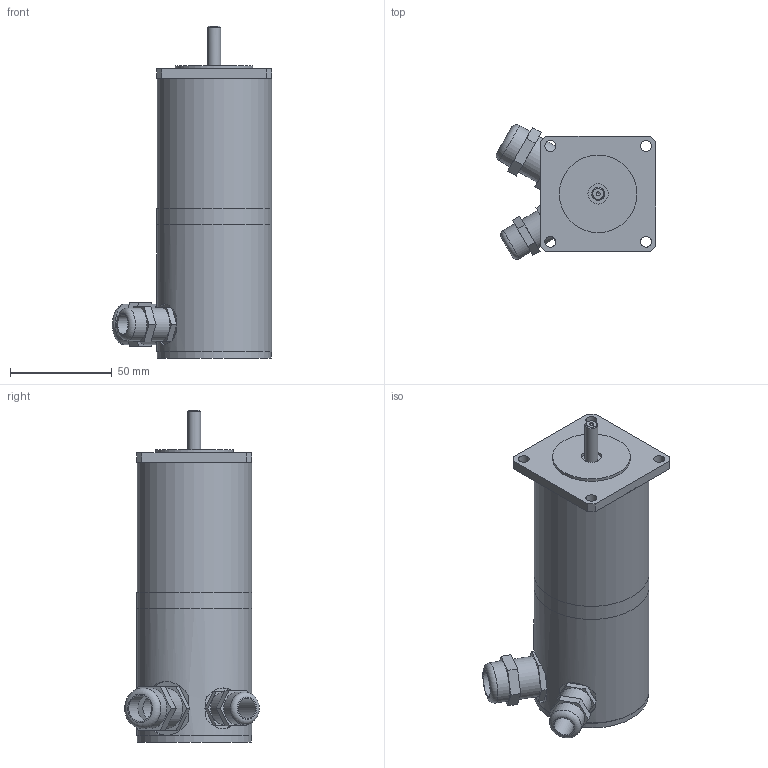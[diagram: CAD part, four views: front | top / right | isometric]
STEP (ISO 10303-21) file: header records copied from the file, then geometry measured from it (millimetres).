
FILE_DESCRIPTION((''),'2;1');
FILE_NAME('C:\Users\Reinhard\Documents\Inventor\Testschrittmotor\SM56\step files\SM 56.2-B-KV.stp','2020-02-24T21:08:50',('Reinhard'),(''),'Autodesk Inventor 2012','Autodesk Inventor 2012','');
FILE_SCHEMA(('CONFIG_CONTROL_DESIGN'));
Length unit declared in the file: millimetre
Products named in the file (1): SM 56.2-B-KV_Konturvereinfachung_1
Bounding box: 78.27 x 66.07 x 163 mm (x, y, z)
Volume: 111149.4 mm3; surface area: 66888.7 mm2
Topology: 2 solids, 3 shells, 108 faces, 240 edges, 155 vertices
Faces by surface type: plane 71, cylinder 33, torus 2, cone 2
Full cylindrical faces by diameter (mm): 2 x1, 5.4 x4, 6.35 x2, 10 x2, 12 x2, 13 x2, 15 x2, 16 x2, 18.376 x1, 20 x3, 38.1 x1, 48 x1, 51.5 x1, 53.5 x1, 56 x1, 56.5 x3
Entity records: 2936 total; most frequent: CARTESIAN_POINT 589, DIRECTION 476, ORIENTED_EDGE 402, EDGE_CURVE 201, AXIS2_PLACEMENT_3D 176, EDGE_LOOP 174, VERTEX_POINT 149, VECTOR 124
